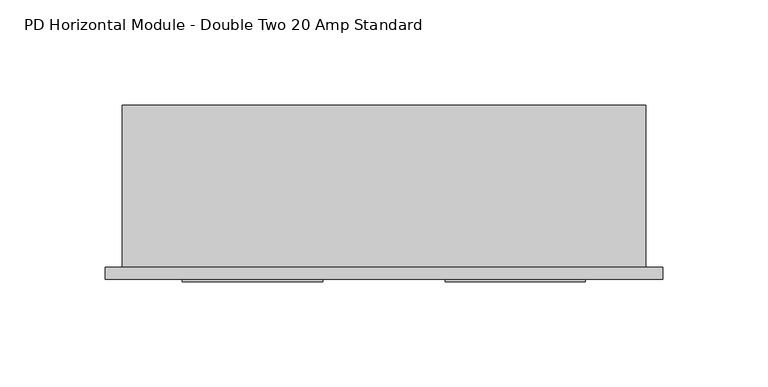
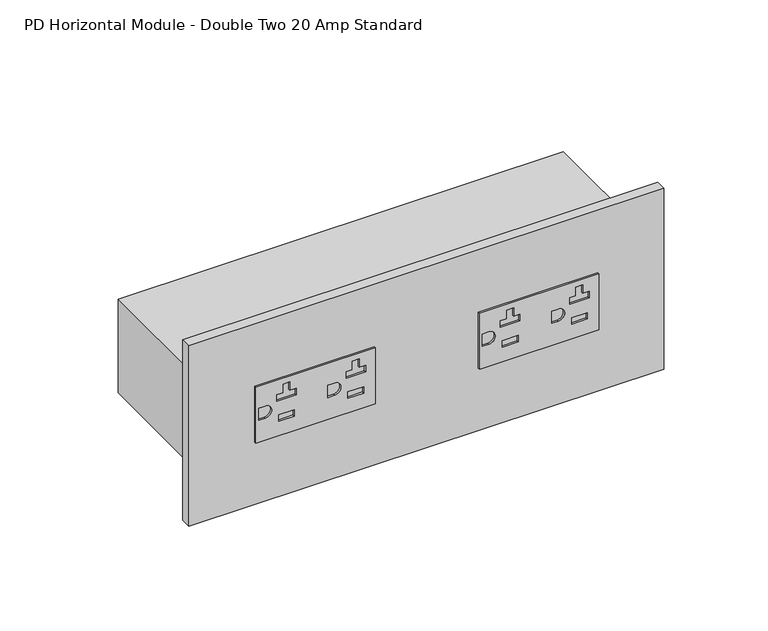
"""IFC4 building model written with IfcOpenShell, lengths in millimetres: proxy geometry, Electrical-Teknion-EPDHD_Horizontal_Power_Data_Double-R2019 : PD Horizontal Module - Double Two 20 Amp Standard."""

import ifcopenshell
import ifcopenshell.guid

model = None  # the IFC model being written
_history = None  # IfcOwnerHistory: only IFC2X3 demands one
_inside = {}  # id of a spatial element -> (the spatial element, [elements in it])
_under = {}  # id of a project, library or spatial element -> (it, [spatial elements below it])
_declared = {}  # id of a project -> (the project, [libraries it declares])
_typed = {}  # id of a type object -> (the type object, [elements of that type])
_made_of = {}  # id of a material, layer set ... -> (it, [elements and type objects made of it])


def new_model(schema):
    """Start an empty IFC model of exactly this schema.

    Asked for "IFC4X3", IfcOpenShell would pick the latest addendum, in which some entities
    have other attributes; the version numbers below select the first issue.
    IFC2X3 requires an IfcOwnerHistory on every rooted entity: one is made here for all.
    """
    global model, _history
    if schema == "IFC4X3":
        model = ifcopenshell.file(schema_version=(4, 3, 0, 0))
    else:
        model = ifcopenshell.file(schema=schema)
    _inside.clear()
    _under.clear()
    _declared.clear()
    _typed.clear()
    _made_of.clear()
    _history = None
    if model.schema == "IFC2X3":
        org = make("IfcOrganization", Name="unknown")
        user = make(
            "IfcPersonAndOrganization",
            ThePerson=make("IfcPerson", FamilyName="unknown"),
            TheOrganization=org,
        )
        app = make(
            "IfcApplication",
            ApplicationDeveloper=org,
            Version="unknown",
            ApplicationFullName="unknown",
            ApplicationIdentifier="unknown",
        )
        _history = make(
            "IfcOwnerHistory",
            OwningUser=user,
            OwningApplication=app,
            ChangeAction="ADDED",
            CreationDate=0,
        )
    return model


def make(cls, **values):
    """One entity of the class cls with the attributes given. An attribute that is None is left unset."""
    return model.create_entity(
        cls, **{name: value for name, value in values.items() if value is not None}
    )


def rooted(cls, **values):
    """An entity with a GlobalId (a new one), such as an element, a storey or a relation."""
    return make(cls, GlobalId=ifcopenshell.guid.new(), OwnerHistory=_history, **values)


def si_unit(unit_type, name, prefix=None):
    """IfcSIUnit, for example si_unit("LENGTHUNIT", "METRE", prefix="MILLI")."""
    return make("IfcSIUnit", UnitType=unit_type, Prefix=prefix, Name=name)


def assignment(units):
    """IfcUnitAssignment: the units of a project."""
    return None if units is None else make("IfcUnitAssignment", Units=units)


def point(xyz):
    """IfcCartesianPoint."""
    return None if xyz is None else make("IfcCartesianPoint", Coordinates=xyz)


def direction(xyz):
    """IfcDirection."""
    return None if xyz is None else make("IfcDirection", DirectionRatios=xyz)


def frame(location, z_axis=None, x_axis=None):
    """IfcAxis2Placement3D, a coordinate frame: its origin and axes. An axis left out is left unset."""
    return make(
        "IfcAxis2Placement3D",
        Location=point(location),
        Axis=direction(z_axis),
        RefDirection=direction(x_axis),
    )


def frame_2d(location, x_axis=None):
    """IfcAxis2Placement2D, a coordinate frame in the plane: its origin and x axis."""
    return make(
        "IfcAxis2Placement2D", Location=point(location), RefDirection=direction(x_axis)
    )


def origin():
    """The frame at (0, 0, 0) with its axes left unset."""
    return frame((0.0, 0.0, 0.0))


def place(relative_to, where):
    """IfcLocalPlacement: puts the frame where relative to a parent placement (None: the world)."""
    return make(
        "IfcLocalPlacement", PlacementRelTo=relative_to, RelativePlacement=where
    )


def context(
    kind, dimensions, precision=None, world=None, true_north=None, identifier=None
):
    """IfcGeometricRepresentationContext, for example the 3D "Model" context."""
    return make(
        "IfcGeometricRepresentationContext",
        ContextIdentifier=identifier,
        ContextType=kind,
        CoordinateSpaceDimension=dimensions,
        Precision=precision,
        WorldCoordinateSystem=world,
        TrueNorth=true_north,
    )


def project(units=None, contexts=None):
    """IfcProject with its units and contexts."""
    return rooted(
        "IfcProject",
        Name="project",
        RepresentationContexts=contexts,
        UnitsInContext=assignment(units),
    )


def spatial(cls, under=None, at=None, **own):
    """A site, building, storey or space (cls), placed at a placement, below another one or the project."""
    s = rooted(cls, ObjectPlacement=at, **own)
    if under is not None:
        _under.setdefault(under.id(), (under, []))[1].append(s)
    return s


def polyline(points):
    """IfcPolyline through the points."""
    return make("IfcPolyline", Points=[point(p) for p in points])


def circle_curve(where, radius):
    """IfcCircle in the frame where."""
    return make("IfcCircle", Position=where, Radius=radius)


def trimmed(basis, trim1, trim2, sense, master):
    """IfcTrimmedCurve: the piece of a basis curve between two trims."""
    return make(
        "IfcTrimmedCurve",
        BasisCurve=basis,
        Trim1=trim1,
        Trim2=trim2,
        SenseAgreement=sense,
        MasterRepresentation=master,
    )


def segment(curve, same_sense, transition):
    """IfcCompositeCurveSegment."""
    return make(
        "IfcCompositeCurveSegment",
        Transition=transition,
        SameSense=same_sense,
        ParentCurve=curve,
    )


def composite_curve(segments, self_intersect=None):
    """IfcCompositeCurve: segments joined end to end."""
    return make("IfcCompositeCurve", Segments=segments, SelfIntersect=self_intersect)


def outline(outer, holes=None, kind="AREA"):
    """IfcArbitraryClosedProfileDef: a profile drawn as a closed curve; with holes, ...WithVoids."""
    if holes is None:
        return make("IfcArbitraryClosedProfileDef", ProfileType=kind, OuterCurve=outer)
    return make(
        "IfcArbitraryProfileDefWithVoids",
        ProfileType=kind,
        OuterCurve=outer,
        InnerCurves=holes,
    )


def extrude(swept, where, along, depth):
    """IfcExtrudedAreaSolid: the profile swept, set in the frame where, extruded along a direction by depth."""
    return make(
        "IfcExtrudedAreaSolid",
        SweptArea=swept,
        Position=where,
        ExtrudedDirection=direction(along),
        Depth=depth,
    )


def shape(context_of_items, identifier, shape_type, items):
    """IfcShapeRepresentation: the items that make up one representation, for example the "Body"."""
    return make(
        "IfcShapeRepresentation",
        ContextOfItems=context_of_items,
        RepresentationIdentifier=identifier,
        RepresentationType=shape_type,
        Items=items,
    )


def source(mapping_origin, context_of_items, identifier, shape_type, items):
    """IfcRepresentationMap: a shape defined once, which mapped items show again and again."""
    return make(
        "IfcRepresentationMap",
        MappingOrigin=mapping_origin,
        MappedRepresentation=shape(context_of_items, identifier, shape_type, items),
    )


def transform(
    local_origin,
    x_axis=None,
    y_axis=None,
    z_axis=None,
    scale=None,
    scale2=None,
    scale3=None,
    uniform=True,
):
    """IfcCartesianTransformationOperator3D, or its non-uniform kind. x_axis, y_axis, z_axis: its Axis1, 2, 3."""
    if uniform:
        return make(
            "IfcCartesianTransformationOperator3D",
            Axis1=direction(x_axis),
            Axis2=direction(y_axis),
            LocalOrigin=point(local_origin),
            Scale=scale,
            Axis3=direction(z_axis),
        )
    return make(
        "IfcCartesianTransformationOperator3DnonUniform",
        Axis1=direction(x_axis),
        Axis2=direction(y_axis),
        LocalOrigin=point(local_origin),
        Scale=scale,
        Axis3=direction(z_axis),
        Scale2=scale2,
        Scale3=scale3,
    )


def mapped(mapping_source, mapping_target):
    """IfcMappedItem: shows the shape of a source again, moved by a transform."""
    return make(
        "IfcMappedItem", MappingSource=mapping_source, MappingTarget=mapping_target
    )


def made_of(thing, what):
    """Note that an element or type object is made of a material, layer set ...; save() writes the relation."""
    if what is not None:
        _made_of.setdefault(what.id(), (what, []))[1].append(thing)
    return thing


def element(
    cls,
    number,
    at=None,
    inside=None,
    cuts=None,
    type_object=None,
    material=None,
    context=None,
    identifier="Body",
    shape_type=None,
    held_by="IfcProductDefinitionShape",
    body=None,
    shapes=None,
    **own,
):
    """One element of the class cls, such as IfcWall. Its Tag is "e" and its number.

    at: its placement. inside: the storey or other place that contains it. cuts: it is an
    opening in that element (IfcRelVoidsElement). A single representation is given by context,
    identifier, shape_type and body (its items); several are given by shapes. held_by: the class
    of the entity that holds the representations. save() writes the other relations.
    """
    e = rooted(cls, Tag="e%d" % number, ObjectPlacement=at, **own)
    if body is not None:
        shapes = [shape(context, identifier, shape_type, body)]
    if shapes is not None:
        e.Representation = make(held_by, Representations=shapes)
    if inside is not None:
        _inside.setdefault(inside.id(), (inside, []))[1].append(e)
    if cuts is not None:
        rooted(
            "IfcRelVoidsElement", RelatingBuildingElement=cuts, RelatedOpeningElement=e
        )
    if type_object is not None:
        _typed.setdefault(type_object.id(), (type_object, []))[1].append(e)
    return made_of(e, material)


def aggregate(whole, parts):
    """IfcRelAggregates: a whole, such as a stair, and the parts it consists of."""
    return rooted("IfcRelAggregates", RelatingObject=whole, RelatedObjects=parts)


def save(model, path):
    """Write the relations noted so far, then the file.

    IfcRelAggregates (storeys below a building ...), IfcRelContainedInSpatialStructure (elements
    in a storey), IfcRelDefinesByType, IfcRelAssociatesMaterial and IfcRelDeclares: one each for
    every whole, place, type object, material and project.
    """
    for whole, parts in _under.values():
        aggregate(whole, parts)
    for where, things in _inside.values():
        rooted(
            "IfcRelContainedInSpatialStructure",
            RelatedElements=things,
            RelatingStructure=where,
        )
    for kind, things in _typed.values():
        rooted("IfcRelDefinesByType", RelatedObjects=things, RelatingType=kind)
    for what, things in _made_of.values():
        rooted("IfcRelAssociatesMaterial", RelatedObjects=things, RelatingMaterial=what)
    for by, libraries in _declared.values():
        rooted("IfcRelDeclares", RelatingContext=by, RelatedDefinitions=libraries)
    model.write(path)


def pd_horizontal_module_double_two_20_amp_standard_3f62b5b6(model_context):
    return source(origin(), model_context, "Body", "SweptSolid", [
        extrude(outline(polyline([(854.6077229, 153.6177375), (821.6131229, 153.6177375), (821.6131229, 220.2976041), (854.6077229, 220.2976041), (854.6077229, 153.6177375)]), holes=[composite_curve([segment(trimmed(circle_curve(frame_2d((838.1104229, 158.7899344)), 3.6322), [point((841.7426229, 158.7899344))], [point((834.4782229, 158.7899344))], True, "CARTESIAN"), True, "CONTINUOUS"), segment(polyline([(834.4782229, 158.7899344), (834.4782229, 155.1577344), (841.7426229, 155.1577344), (841.7426229, 158.7899344)]), True, "CONTINUOUS")], self_intersect=False), polyline([(846.1104069, 168.8173032), (851.2064089, 168.8173032), (851.2064089, 172.6781032), (846.1104069, 172.6781032), (846.1104069, 176.1776924), (842.2804146, 176.1776924), (842.2804146, 165.3177141), (846.1104069, 165.3177141), (846.1104069, 168.8173032)]), composite_curve([segment(polyline([(834.4782229, 197.5249344), (834.4782229, 193.8927344), (841.7426229, 193.8927344), (841.7426229, 197.5249344)]), True, "CONTINUOUS"), segment(trimmed(circle_curve(frame_2d((838.1104229, 197.5249344)), 3.6322), [point((841.7426229, 197.5249344))], [point((834.4782229, 197.5249344))], True, "CARTESIAN"), True, "CONTINUOUS")], self_intersect=False), polyline([(846.1104069, 207.5572257), (851.2064089, 207.5572257), (851.2064089, 211.4180257), (846.1104069, 211.4180257), (846.1104069, 214.9176149), (842.2804146, 214.9176149), (842.2804146, 204.0576366), (846.1104069, 204.0576366), (846.1104069, 207.5572257)]), polyline([(833.9404313, 213.9176169), (830.1104389, 213.9176169), (830.1104389, 205.0576346), (833.9404313, 205.0576346), (833.9404313, 213.9176169)]), polyline([(833.9404313, 175.1776944), (830.1104389, 175.1776944), (830.1104389, 166.3177121), (833.9404313, 166.3177121), (833.9404313, 175.1776944)])]), frame((0.0, -6.9294746, 0.0), z_axis=(0.0, 1.0, 0.0), x_axis=(0.0, 0.0, 1.0)), (0.0, 0.0, 1.0), 1.0366746),
        extrude(outline(polyline([(854.6103899, 28.5842992), (821.6104559, 28.5842992), (821.6104559, 95.2641659), (854.6103899, 95.2641659), (854.6103899, 28.5842992)]), holes=[composite_curve([segment(trimmed(circle_curve(frame_2d((838.1082157, 33.7564961)), 3.6322), [point((841.7404157, 33.7564961))], [point((834.4760157, 33.7564961))], True, "CARTESIAN"), True, "CONTINUOUS"), segment(polyline([(834.4760157, 33.7564961), (834.4760157, 30.1242961), (841.7404157, 30.1242961), (841.7404157, 33.7564961)]), True, "CONTINUOUS")], self_intersect=False), polyline([(846.1104069, 43.783865), (851.2064089, 43.783865), (851.2064089, 47.644665), (846.1104069, 47.644665), (846.1104069, 51.1442541), (842.2804146, 51.1442541), (842.2804146, 40.2842758), (846.1104069, 40.2842758), (846.1104069, 43.783865)]), polyline([(833.9404313, 50.1442561), (830.1104389, 50.1442561), (830.1104389, 41.2842738), (833.9404313, 41.2842738), (833.9404313, 50.1442561)]), composite_curve([segment(polyline([(834.4760157, 72.4964187), (834.4760157, 68.8642187), (841.7404157, 68.8642187), (841.7404157, 72.4964187)]), True, "CONTINUOUS"), segment(trimmed(circle_curve(frame_2d((838.1082157, 72.4964187)), 3.6322), [point((841.7404157, 72.4964187))], [point((834.4760157, 72.4964187))], True, "CARTESIAN"), True, "CONTINUOUS")], self_intersect=False), polyline([(846.1104069, 82.5237875), (851.2064089, 82.5237875), (851.2064089, 86.3845875), (846.1104069, 86.3845875), (846.1104069, 89.8841766), (842.2804146, 89.8841766), (842.2804146, 79.0241983), (846.1104069, 79.0241983), (846.1104069, 82.5237875)]), polyline([(833.9404313, 88.8841786), (830.1104389, 88.8841786), (830.1104389, 80.0241963), (833.9404313, 80.0241963), (833.9404313, 88.8841786)])]), frame((0.0, -6.9294746, 0.0), z_axis=(0.0, 1.0, 0.0), x_axis=(0.0, 0.0, 1.0)), (0.0, 0.0, 1.0), 1.0366746),
        extrude(outline(polyline([(-8.2450977, 0.0), (257.1652913, 0.0), (257.1652913, -5.8928), (-8.2450977, -5.8928), (-8.2450977, 0.0)])), frame((0.0, 0.0, 784.6718508), z_axis=(0.0, 0.0, 1.0), x_axis=(1.0, 0.0, 0.0)), (0.0, 0.0, 1.0), 106.8771443),
        extrude(outline(polyline([(248.92, 0.0), (0.0, 0.0), (0.0, 77.054), (248.92, 77.054), (248.92, 0.0)])), frame((0.0, 0.0, 810.3355229), z_axis=(0.0, 0.0, 1.0), x_axis=(1.0, 0.0, 0.0)), (0.0, 0.0, 1.0), 55.5498),
    ])


if __name__ == "__main__":
    model = new_model("IFC4")
    model_context = context("Model", 3, world=origin())
    ifc_project = project(units=[si_unit("LENGTHUNIT", "METRE", prefix="MILLI")], contexts=[model_context])
    site = spatial("IfcSite", under=ifc_project)
    building = spatial("IfcBuilding", under=site)
    placement = place(None, origin())
    pd_horizontal_module_double_two_20_amp_standard_shape = pd_horizontal_module_double_two_20_amp_standard_3f62b5b6(model_context)
    element("IfcBuildingElementProxy", 1, Name="Electrical-Teknion-EPDHD_Horizontal_Power_Data_Double-R2019 : PD Horizontal Module - Double Two 20 Amp Standard", ObjectType="Electrical-Teknion-EPDHD_Horizontal_Power_Data_Double-R2019 : PD Horizontal Module - Double Two 20 Amp Standard", at=placement, inside=building, context=model_context, shape_type="MappedRepresentation", body=[
        mapped(pd_horizontal_module_double_two_20_amp_standard_shape, transform((0.0, 0.0, 0.0), x_axis=(1.0, 0.0, 0.0), y_axis=(0.0, 1.0, 0.0), z_axis=(0.0, 0.0, 1.0))),
    ])
    save(model, "model.ifc")
